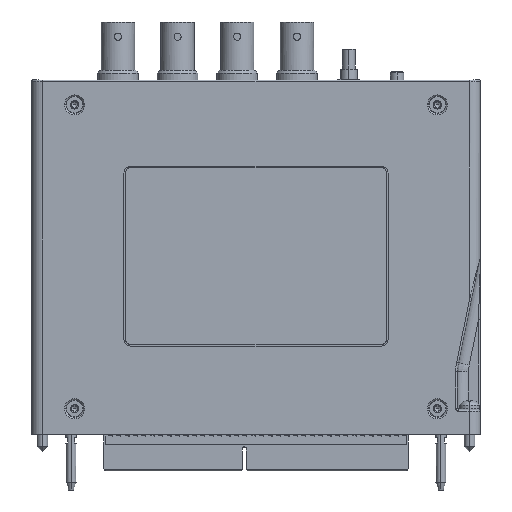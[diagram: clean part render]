
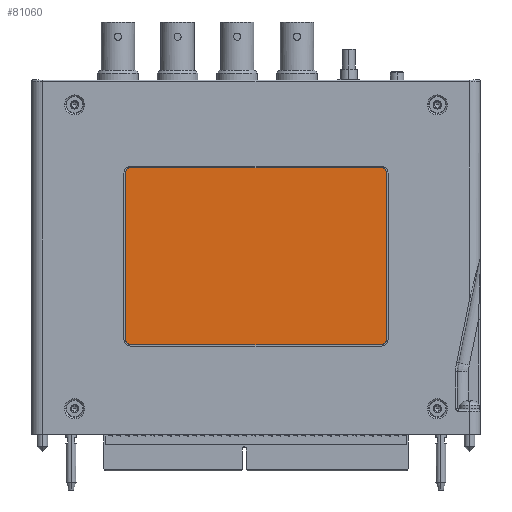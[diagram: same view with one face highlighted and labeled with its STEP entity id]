
A CAD part, left-side view. The second image highlights one B-rep face of the part: STEP entity #81060.
In plain terms, the highlighted planar face has unit normal (-1, 0, 0).
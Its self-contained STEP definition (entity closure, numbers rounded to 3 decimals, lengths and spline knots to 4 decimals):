
#26943=CARTESIAN_POINT('',(-0.16,1.413,2.943));
#26944=DIRECTION('',(-1.,0.,0.));
#26945=DIRECTION('',(0.,0.,1.));
#26946=AXIS2_PLACEMENT_3D('',#26943,#26944,#26945);
#26948=DIRECTION('',(0.,1.,0.));
#26949=VECTOR('',#26948,2.826);
#26950=CARTESIAN_POINT('',(-0.16,-1.413,3.005));
#26951=LINE('',#26950,#26949);
#26952=CARTESIAN_POINT('',(-0.16,-1.413,2.943));
#26953=DIRECTION('',(-1.,0.,0.));
#26954=DIRECTION('',(0.,-1.,0.));
#26955=AXIS2_PLACEMENT_3D('',#26952,#26953,#26954);
#26957=DIRECTION('',(0.,0.,1.));
#26958=VECTOR('',#26957,1.876);
#26959=CARTESIAN_POINT('',(-0.16,-1.475,1.067));
#26960=LINE('',#26959,#26958);
#26961=CARTESIAN_POINT('',(-0.16,-1.413,1.067));
#26962=DIRECTION('',(-1.,0.,0.));
#26963=DIRECTION('',(0.,0.,-1.));
#26964=AXIS2_PLACEMENT_3D('',#26961,#26962,#26963);
#26966=DIRECTION('',(0.,-1.,0.));
#26967=VECTOR('',#26966,2.826);
#26968=CARTESIAN_POINT('',(-0.16,1.413,1.005));
#26969=LINE('',#26968,#26967);
#26970=CARTESIAN_POINT('',(-0.16,1.413,1.067));
#26971=DIRECTION('',(-1.,0.,0.));
#26972=DIRECTION('',(0.,1.,0.));
#26973=AXIS2_PLACEMENT_3D('',#26970,#26971,#26972);
#26975=DIRECTION('',(0.,0.,-1.));
#26976=VECTOR('',#26975,1.876);
#26977=CARTESIAN_POINT('',(-0.16,1.475,2.943));
#26978=LINE('',#26977,#26976);
#40856=CARTESIAN_POINT('',(-0.16,1.413,3.005));
#40857=CARTESIAN_POINT('',(-0.16,1.475,2.943));
#40858=VERTEX_POINT('',#40856);
#40859=VERTEX_POINT('',#40857);
#40860=CARTESIAN_POINT('',(-0.16,-1.475,2.943));
#40861=CARTESIAN_POINT('',(-0.16,-1.413,3.005));
#40862=VERTEX_POINT('',#40860);
#40863=VERTEX_POINT('',#40861);
#40864=CARTESIAN_POINT('',(-0.16,-1.413,1.005));
#40865=CARTESIAN_POINT('',(-0.16,-1.475,1.067));
#40866=VERTEX_POINT('',#40864);
#40867=VERTEX_POINT('',#40865);
#40868=CARTESIAN_POINT('',(-0.16,1.475,1.067));
#40869=CARTESIAN_POINT('',(-0.16,1.413,1.005));
#40870=VERTEX_POINT('',#40868);
#40871=VERTEX_POINT('',#40869);
#81045=CARTESIAN_POINT('',(-0.16,-1.475,1.005));
#81046=DIRECTION('',(-1.,0.,0.));
#81047=DIRECTION('',(0.,0.,1.));
#81048=AXIS2_PLACEMENT_3D('',#81045,#81046,#81047);
#81049=PLANE('',#81048);
#81050=ORIENTED_EDGE('',*,*,#81012,.F.);
#81051=ORIENTED_EDGE('',*,*,#81026,.F.);
#81052=ORIENTED_EDGE('',*,*,#81039,.F.);
#81053=ORIENTED_EDGE('',*,*,#80941,.F.);
#81054=ORIENTED_EDGE('',*,*,#80956,.F.);
#81055=ORIENTED_EDGE('',*,*,#80970,.F.);
#81056=ORIENTED_EDGE('',*,*,#80984,.F.);
#81057=ORIENTED_EDGE('',*,*,#80998,.F.);
#81058=EDGE_LOOP('',(#81050,#81051,#81052,#81053,#81054,#81055,#81056,#81057));
#81059=FACE_OUTER_BOUND('',#81058,.F.);
#81060=ADVANCED_FACE('',(#81059),#81049,.T.);
#26947=CIRCLE('',#26946,0.062);
#26956=CIRCLE('',#26955,0.062);
#26965=CIRCLE('',#26964,0.062);
#26974=CIRCLE('',#26973,0.062);
#80941=EDGE_CURVE('',#40867,#40862,#26960,.T.);
#80956=EDGE_CURVE('',#40866,#40867,#26965,.T.);
#80970=EDGE_CURVE('',#40871,#40866,#26969,.T.);
#80984=EDGE_CURVE('',#40870,#40871,#26974,.T.);
#80998=EDGE_CURVE('',#40859,#40870,#26978,.T.);
#81012=EDGE_CURVE('',#40858,#40859,#26947,.T.);
#81026=EDGE_CURVE('',#40863,#40858,#26951,.T.);
#81039=EDGE_CURVE('',#40862,#40863,#26956,.T.);
